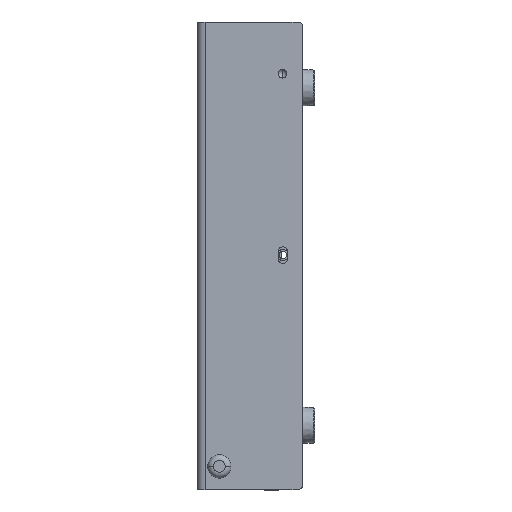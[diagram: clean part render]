
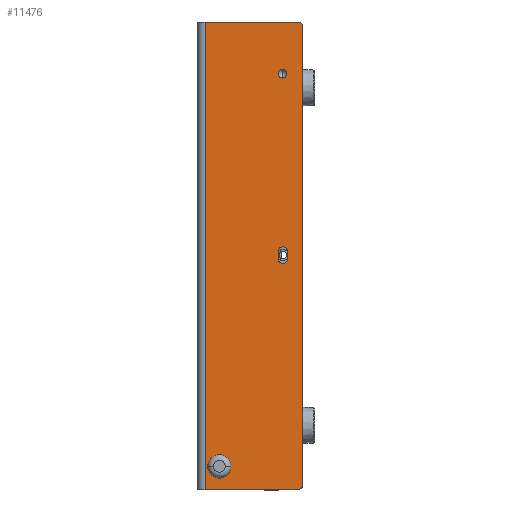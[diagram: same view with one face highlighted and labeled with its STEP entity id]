
A CAD part, left-side view. The second image highlights one B-rep face of the part: STEP entity #11476.
In plain terms, the highlighted planar face has unit normal (-1, 0, 0).
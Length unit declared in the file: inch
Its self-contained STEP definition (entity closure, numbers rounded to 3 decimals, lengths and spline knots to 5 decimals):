
#3451=DIRECTION('',(0.,0.,-1.));
#3452=VECTOR('',#3451,7.06);
#3453=CARTESIAN_POINT('',(-2.936,-0.08,3.53));
#3454=LINE('',#3453,#3452);
#3469=DIRECTION('',(0.,0.,1.));
#3470=VECTOR('',#3469,6.92);
#3471=CARTESIAN_POINT('',(-2.936,-1.554,-3.46));
#3472=LINE('',#3471,#3470);
#3473=DIRECTION('',(0.,-1.,0.));
#3474=VECTOR('',#3473,1.404);
#3475=CARTESIAN_POINT('',(-2.936,-0.08,-3.53));
#3476=LINE('',#3475,#3474);
#3477=DIRECTION('',(0.,1.,0.));
#3478=VECTOR('',#3477,1.404);
#3479=CARTESIAN_POINT('',(-2.936,-1.484,3.53));
#3480=LINE('',#3479,#3478);
#3481=DIRECTION('',(0.,0.,-1.));
#3482=VECTOR('',#3481,0.11);
#3483=CARTESIAN_POINT('',(-2.936,-1.184,0.065));
#3484=LINE('',#3483,#3482);
#3485=CARTESIAN_POINT('',(-2.936,-1.254,-0.045));
#3486=DIRECTION('',(1.,0.,0.));
#3487=DIRECTION('',(0.,-1.,0.));
#3488=AXIS2_PLACEMENT_3D('',#3485,#3486,#3487);
#3490=DIRECTION('',(0.,0.,1.));
#3491=VECTOR('',#3490,0.11);
#3492=CARTESIAN_POINT('',(-2.936,-1.324,-0.045));
#3493=LINE('',#3492,#3491);
#3494=CARTESIAN_POINT('',(-2.936,-1.254,0.065));
#3495=DIRECTION('',(1.,0.,0.));
#3496=DIRECTION('',(0.,1.,0.));
#3497=AXIS2_PLACEMENT_3D('',#3494,#3495,#3496);
#3499=CARTESIAN_POINT('',(-2.936,-1.248,2.75));
#3500=DIRECTION('',(-1.,0.,0.));
#3501=DIRECTION('',(0.,0.,-1.));
#3502=AXIS2_PLACEMENT_3D('',#3499,#3500,#3501);
#3504=CARTESIAN_POINT('',(-2.936,-1.248,2.75));
#3505=DIRECTION('',(-1.,0.,0.));
#3506=DIRECTION('',(0.,0.,1.));
#3507=AXIS2_PLACEMENT_3D('',#3504,#3505,#3506);
#3509=CARTESIAN_POINT('',(-2.936,-0.294,-3.18));
#3510=DIRECTION('',(1.,0.,0.));
#3511=DIRECTION('',(0.,-1.,0.));
#3512=AXIS2_PLACEMENT_3D('',#3509,#3510,#3511);
#3514=CARTESIAN_POINT('',(-2.936,-0.294,-3.18));
#3515=DIRECTION('',(1.,0.,0.));
#3516=DIRECTION('',(0.,1.,0.));
#3517=AXIS2_PLACEMENT_3D('',#3514,#3515,#3516);
#3532=CARTESIAN_POINT('',(-2.936,-1.484,3.46));
#3533=DIRECTION('',(-1.,0.,0.));
#3534=DIRECTION('',(0.,-1.,0.));
#3535=AXIS2_PLACEMENT_3D('',#3532,#3533,#3534);
#3638=CARTESIAN_POINT('',(-2.936,-1.484,-3.46));
#3639=DIRECTION('',(-1.,0.,0.));
#3640=DIRECTION('',(0.,0.,-1.));
#3641=AXIS2_PLACEMENT_3D('',#3638,#3639,#3640);
#5933=CARTESIAN_POINT('',(-2.936,-0.08,3.53));
#5934=CARTESIAN_POINT('',(-2.936,-0.08,-3.53));
#5935=VERTEX_POINT('',#5933);
#5936=VERTEX_POINT('',#5934);
#5965=CARTESIAN_POINT('',(-2.936,-1.184,0.065));
#5966=CARTESIAN_POINT('',(-2.936,-1.184,-0.045));
#5967=VERTEX_POINT('',#5965);
#5968=VERTEX_POINT('',#5966);
#5969=CARTESIAN_POINT('',(-2.936,-1.324,-0.045));
#5970=VERTEX_POINT('',#5969);
#5971=CARTESIAN_POINT('',(-2.936,-1.324,0.065));
#5972=VERTEX_POINT('',#5971);
#5999=CARTESIAN_POINT('',(-2.936,-1.248,2.68367));
#6000=CARTESIAN_POINT('',(-2.936,-1.248,2.81633));
#6001=VERTEX_POINT('',#5999);
#6002=VERTEX_POINT('',#6000);
#6010=CARTESIAN_POINT('',(-2.936,-1.484,3.53));
#6012=VERTEX_POINT('',#6010);
#6015=CARTESIAN_POINT('',(-2.936,-1.554,3.46));
#6016=VERTEX_POINT('',#6015);
#6018=CARTESIAN_POINT('',(-2.936,-1.554,-3.46));
#6020=VERTEX_POINT('',#6018);
#6023=CARTESIAN_POINT('',(-2.936,-1.484,-3.53));
#6024=VERTEX_POINT('',#6023);
#6147=CARTESIAN_POINT('',(-2.936,-0.471,-3.18));
#6148=CARTESIAN_POINT('',(-2.936,-0.117,-3.18));
#6149=VERTEX_POINT('',#6147);
#6150=VERTEX_POINT('',#6148);
#11436=CARTESIAN_POINT('',(-2.936,0.036,1.85254));
#11437=DIRECTION('',(-1.,0.,0.));
#11438=DIRECTION('',(0.,0.,1.));
#11439=AXIS2_PLACEMENT_3D('',#11436,#11437,#11438);
#11440=PLANE('',#11439);
#11442=ORIENTED_EDGE('',*,*,#11441,.F.);
#11444=ORIENTED_EDGE('',*,*,#11443,.F.);
#11446=ORIENTED_EDGE('',*,*,#11445,.F.);
#11448=ORIENTED_EDGE('',*,*,#11447,.F.);
#11449=ORIENTED_EDGE('',*,*,#11426,.F.);
#11451=ORIENTED_EDGE('',*,*,#11450,.F.);
#11452=EDGE_LOOP('',(#11442,#11444,#11446,#11448,#11449,#11451));
#11453=FACE_OUTER_BOUND('',#11452,.F.);
#11455=ORIENTED_EDGE('',*,*,#11454,.T.);
#11457=ORIENTED_EDGE('',*,*,#11456,.F.);
#11459=ORIENTED_EDGE('',*,*,#11458,.T.);
#11461=ORIENTED_EDGE('',*,*,#11460,.F.);
#11462=EDGE_LOOP('',(#11455,#11457,#11459,#11461));
#11463=FACE_BOUND('',#11462,.F.);
#11465=ORIENTED_EDGE('',*,*,#11464,.T.);
#11467=ORIENTED_EDGE('',*,*,#11466,.T.);
#11468=EDGE_LOOP('',(#11465,#11467));
#11469=FACE_BOUND('',#11468,.F.);
#11471=ORIENTED_EDGE('',*,*,#11470,.F.);
#11473=ORIENTED_EDGE('',*,*,#11472,.F.);
#11474=EDGE_LOOP('',(#11471,#11473));
#11475=FACE_BOUND('',#11474,.F.);
#11476=ADVANCED_FACE('',(#11453,#11463,#11469,#11475),#11440,.T.);
#3489=CIRCLE('',#3488,0.07);
#3498=CIRCLE('',#3497,0.07);
#3503=CIRCLE('',#3502,0.06633);
#3508=CIRCLE('',#3507,0.06633);
#3513=CIRCLE('',#3512,0.177);
#3518=CIRCLE('',#3517,0.177);
#3536=CIRCLE('',#3535,0.07);
#3642=CIRCLE('',#3641,0.07);
#11426=EDGE_CURVE('',#5935,#5936,#3454,.T.);
#11441=EDGE_CURVE('',#6016,#6012,#3536,.T.);
#11443=EDGE_CURVE('',#6020,#6016,#3472,.T.);
#11445=EDGE_CURVE('',#6024,#6020,#3642,.T.);
#11447=EDGE_CURVE('',#5936,#6024,#3476,.T.);
#11450=EDGE_CURVE('',#6012,#5935,#3480,.T.);
#11454=EDGE_CURVE('',#5967,#5968,#3484,.T.);
#11456=EDGE_CURVE('',#5970,#5968,#3489,.T.);
#11458=EDGE_CURVE('',#5970,#5972,#3493,.T.);
#11460=EDGE_CURVE('',#5967,#5972,#3498,.T.);
#11464=EDGE_CURVE('',#6001,#6002,#3503,.T.);
#11466=EDGE_CURVE('',#6002,#6001,#3508,.T.);
#11470=EDGE_CURVE('',#6149,#6150,#3513,.T.);
#11472=EDGE_CURVE('',#6150,#6149,#3518,.T.);
